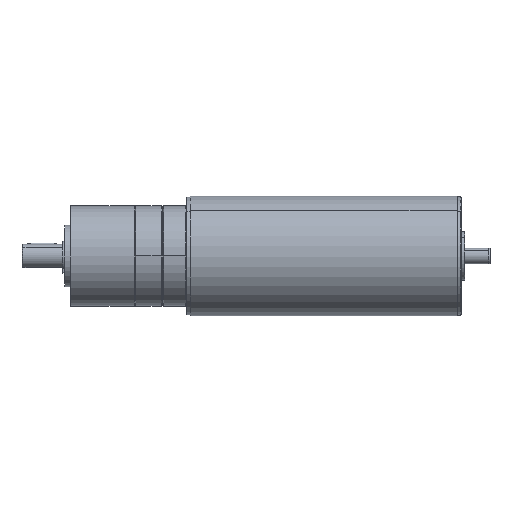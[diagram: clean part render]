
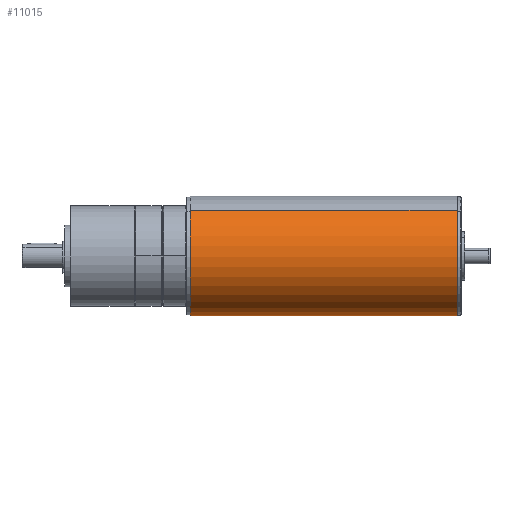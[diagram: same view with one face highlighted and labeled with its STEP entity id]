
A CAD part, front view. The second image highlights one B-rep face of the part: STEP entity #11015.
In plain terms, the highlighted cylindrical face has radius 31 mm (diameter 62 mm), a partial arc.
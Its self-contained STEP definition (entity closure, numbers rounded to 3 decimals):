
#1091 = CARTESIAN_POINT ( 'NONE',  ( 0., 0., -138.5 ) ) ;
#1134 = AXIS2_PLACEMENT_3D ( 'NONE', #17475, #5008, #19538 ) ;
#1520 = CARTESIAN_POINT ( 'NONE',  ( 31., 0., -0.5 ) ) ;
#1896 = VECTOR ( 'NONE', #11274, 1000. ) ;
#2205 = CARTESIAN_POINT ( 'NONE',  ( 31., 0., 35.6 ) ) ;
#2855 = ORIENTED_EDGE ( 'NONE', *, *, #20141, .T. ) ;
#3182 = DIRECTION ( 'NONE',  ( -1., 0., 0. ) ) ;
#5008 = DIRECTION ( 'NONE',  ( 0., 0., -1. ) ) ;
#5197 = CARTESIAN_POINT ( 'NONE',  ( 0., 0., 35.6 ) ) ;
#5643 = VERTEX_POINT ( 'NONE', #9294 ) ;
#7437 = LINE ( 'NONE', #15450, #1896 ) ;
#7479 = AXIS2_PLACEMENT_3D ( 'NONE', #5197, #9126, #13621 ) ;
#9126 = DIRECTION ( 'NONE',  ( 0., 0., -1. ) ) ;
#9294 = CARTESIAN_POINT ( 'NONE',  ( -31., 0., -138.5 ) ) ;
#9549 = CIRCLE ( 'NONE', #18088, 31. ) ;
#9816 = ORIENTED_EDGE ( 'NONE', *, *, #17189, .F. ) ;
#11015 = ADVANCED_FACE ( 'NONE', ( #18534 ), #24259, .T. ) ;
#11240 = CARTESIAN_POINT ( 'NONE',  ( -31., 0., -0.5 ) ) ;
#11274 = DIRECTION ( 'NONE',  ( 0., 0., -1. ) ) ;
#11644 = EDGE_LOOP ( 'NONE', ( #9816, #25409, #24906, #2855 ) ) ;
#11777 = CIRCLE ( 'NONE', #1134, 31. ) ;
#13621 = DIRECTION ( 'NONE',  ( -1., 0., 0. ) ) ;
#15450 = CARTESIAN_POINT ( 'NONE',  ( -31., 0., 35.6 ) ) ;
#15578 = VERTEX_POINT ( 'NONE', #1520 ) ;
#15686 = DIRECTION ( 'NONE',  ( 0., 0., 1. ) ) ;
#16422 = EDGE_CURVE ( 'NONE', #15578, #16426, #11777, .T. ) ;
#16426 = VERTEX_POINT ( 'NONE', #11240 ) ;
#16782 = DIRECTION ( 'NONE',  ( 0., 0., -1. ) ) ;
#17189 = EDGE_CURVE ( 'NONE', #15578, #18467, #21048, .T. ) ;
#17475 = CARTESIAN_POINT ( 'NONE',  ( 0., 0., -0.5 ) ) ;
#17880 = EDGE_CURVE ( 'NONE', #16426, #5643, #7437, .T. ) ;
#18088 = AXIS2_PLACEMENT_3D ( 'NONE', #1091, #15686, #3182 ) ;
#18467 = VERTEX_POINT ( 'NONE', #25576 ) ;
#18534 = FACE_OUTER_BOUND ( 'NONE', #11644, .T. ) ;
#19538 = DIRECTION ( 'NONE',  ( -1., 0., 0. ) ) ;
#20141 = EDGE_CURVE ( 'NONE', #5643, #18467, #9549, .T. ) ;
#21048 = LINE ( 'NONE', #2205, #25836 ) ;
#24259 = CYLINDRICAL_SURFACE ( 'NONE', #7479, 31. ) ;
#24906 = ORIENTED_EDGE ( 'NONE', *, *, #17880, .T. ) ;
#25409 = ORIENTED_EDGE ( 'NONE', *, *, #16422, .T. ) ;
#25576 = CARTESIAN_POINT ( 'NONE',  ( 31., 0., -138.5 ) ) ;
#25836 = VECTOR ( 'NONE', #16782, 1000. ) ;
